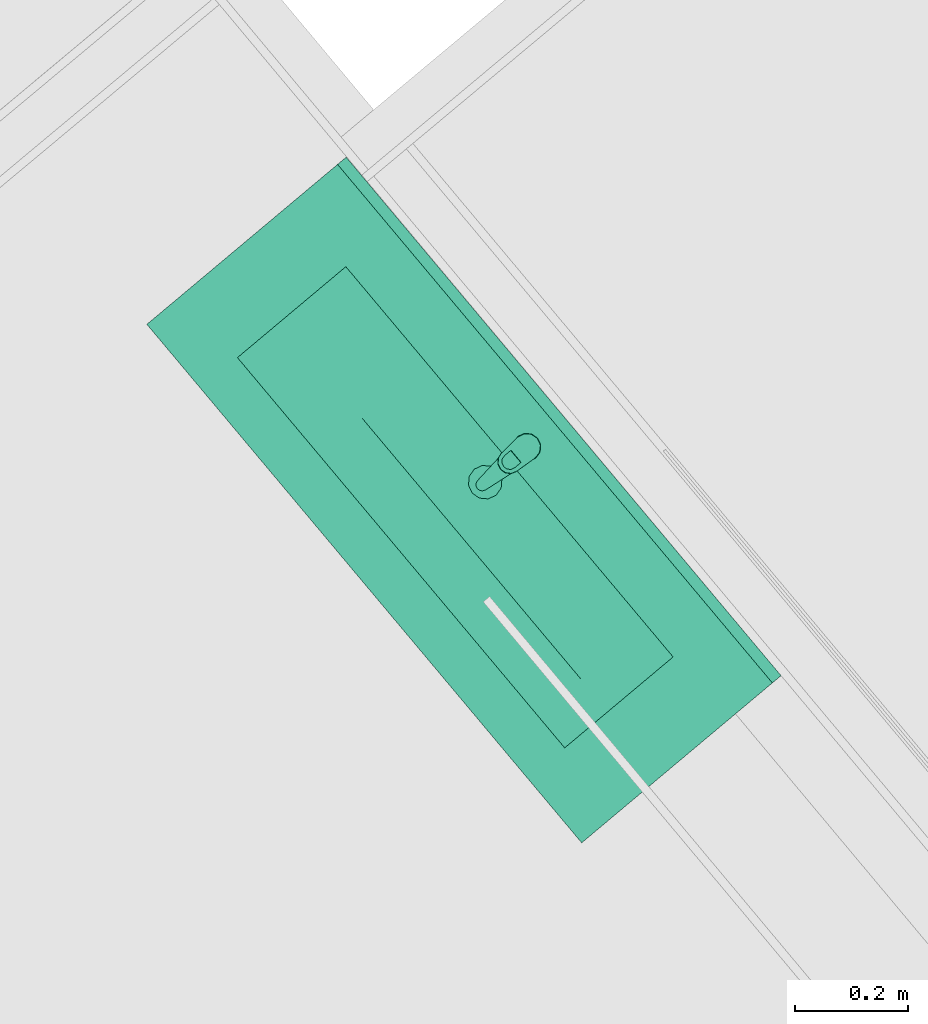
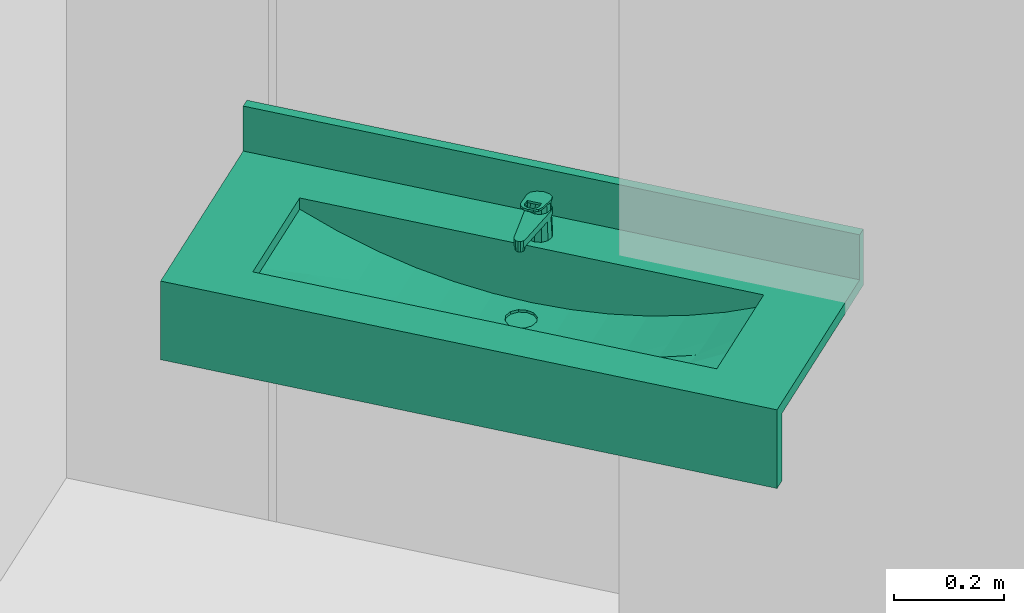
# One storey, part 48 of 50: 1 sanitary terminal.
"""IFC4 building model written with IfcOpenShell, lengths in metres."""

from ifc_helpers import new_model, entity, si_unit, converted_unit, derived_unit, direction, frame, origin_with_axes, place, context, subcontext, project, spatial, polygons, source, transform, mapped, type_object, element, save


model = new_model("IFC4")

# Units and contexts
model_context = context("Model", 3, precision=1e-05, world=origin_with_axes(), true_north=direction((0.0, 1.0)))
body_context = subcontext(model_context, "Body", "Model", "MODEL_VIEW")
ifc_project = project(units=[si_unit("LENGTHUNIT", "METRE"), si_unit("AREAUNIT", "SQUARE_METRE"), si_unit("VOLUMEUNIT", "CUBIC_METRE"), converted_unit("PLANEANGLEUNIT", "DEGREE", entity("IfcPlaneAngleMeasure", 0.0174532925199), si_unit("PLANEANGLEUNIT", "RADIAN"), dimensions=[0, 0, 0, 0, 0, 0, 0]), converted_unit("TIMEUNIT", "Year", entity("IfcTimeMeasure", 31556926.0), si_unit("TIMEUNIT", "SECOND"), dimensions=[0, 0, 1, 0, 0, 0, 0]), si_unit("MASSUNIT", "GRAM", prefix="KILO"), si_unit("THERMODYNAMICTEMPERATUREUNIT", "DEGREE_CELSIUS"), si_unit("LUMINOUSINTENSITYUNIT", "LUMEN"), si_unit("ENERGYUNIT", "JOULE", prefix="MEGA"), derived_unit("THERMALCONDUCTANCEUNIT", [(si_unit("POWERUNIT", "WATT"), 1), (si_unit("LENGTHUNIT", "METRE"), -1), (si_unit("THERMODYNAMICTEMPERATUREUNIT", "KELVIN"), -1)]), derived_unit("SPECIFICHEATCAPACITYUNIT", [(si_unit("ENERGYUNIT", "JOULE"), 1), (si_unit("MASSUNIT", "GRAM", prefix="KILO"), -1), (si_unit("THERMODYNAMICTEMPERATUREUNIT", "KELVIN"), -1)]), derived_unit("MASSDENSITYUNIT", [(si_unit("MASSUNIT", "GRAM", prefix="KILO"), 1), (si_unit("VOLUMEUNIT", "CUBIC_METRE"), -1)])], contexts=[model_context])

# Site, building, storey, space
site_placement = place(None, frame((-0.00153261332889, -0.00661245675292, 0.0), z_axis=(0.0, 0.0, 1.0), x_axis=(1.0, 0.0, 0.0)))
site = spatial("IfcSite", under=ifc_project, at=site_placement, Name="Gelände", CompositionType="ELEMENT")
building_placement = place(site_placement, origin_with_axes())
building = spatial("IfcBuilding", under=site, at=building_placement, Name="Gebäude", CompositionType="ELEMENT")
storey_placement = place(building_placement, frame((0.0, 0.0, 8.66), z_axis=(0.0, 0.0, 1.0), x_axis=(1.0, 0.0, 0.0)))
storey = spatial("IfcBuildingStorey", under=building, at=storey_placement, Name="DG2", CompositionType="ELEMENT", Elevation=8.66)
space_placement = place(storey_placement, frame((2.09467668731, 18.9197573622, 0.22), z_axis=(0.0, 0.0, 1.0), x_axis=(0.640870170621, -0.76764928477, 0.0)))
space = spatial("IfcSpace", under=storey, at=space_placement, CompositionType="ELEMENT", PredefinedType="NOTDEFINED")

# Sanitary terminal
sanitary_terminal_type = type_object("IfcSanitaryTerminalType", Name="Waschbecken mehrfach 26", PredefinedType="NOTDEFINED")
shared_shape = source(origin_with_axes(), body_context, "Body", "Tessellation", [
    polygons([(-0.597906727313, 0.0, 0.875), (0.597906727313, 0.0, 0.875), (0.597906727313, -0.459810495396, 0.875), (-0.597906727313, -0.459810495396, 0.875), (-0.45, -0.374905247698, 0.875), (0.45, -0.374905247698, 0.875), (0.45, -0.124905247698, 0.875), (-0.45, -0.124905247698, 0.875), (-0.597906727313, 0.0, 0.9), (0.597906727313, 0.0, 0.9), (0.597906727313, -0.459810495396, 0.9), (-0.597906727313, -0.459810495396, 0.9), (-0.45, -0.374905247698, 0.9), (0.45, -0.374905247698, 0.9), (0.45, -0.124905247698, 0.9), (-0.45, -0.124905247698, 0.9)], [[[1, 2, 3, 4], [5, 6, 7, 8]], [[1, 9, 10, 2]], [[2, 10, 11, 3]], [[3, 11, 12, 4]], [[4, 12, 9, 1]], [[13, 14, 6, 5]], [[14, 15, 7, 6]], [[15, 16, 8, 7]], [[16, 13, 5, 8]], [[11, 10, 9, 12], [13, 16, 15, 14]]], closed=True),
    polygons([(-0.597906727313, -0.02, 0.9), (0.597906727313, -0.02, 0.9), (0.597906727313, -0.02, 1.0), (-0.597906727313, -0.02, 1.0), (-0.597906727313, 0.0, 0.9), (0.597906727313, 0.0, 0.9), (0.597906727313, 0.0, 1.0), (-0.597906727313, 0.0, 1.0)], [[[1, 2, 3, 4]], [[1, 5, 6, 2]], [[2, 6, 7, 3]], [[4, 3, 7, 8]], [[5, 1, 4, 8]], [[6, 5, 8, 7]]], closed=True),
    polygons([(-0.597906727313, -0.459810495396, 0.725), (0.597906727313, -0.459810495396, 0.725), (0.597906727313, -0.459810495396, 0.875), (-0.597906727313, -0.459810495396, 0.875), (-0.597906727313, -0.434810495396, 0.725), (0.597906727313, -0.434810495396, 0.725), (0.597906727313, -0.434810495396, 0.875), (-0.597906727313, -0.434810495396, 0.875)], [[[1, 2, 3, 4]], [[1, 5, 6, 2]], [[2, 6, 7, 3]], [[4, 3, 7, 8]], [[5, 1, 4, 8]], [[6, 5, 8, 7]]], closed=True),
    polygons([(0.0, -0.210896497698, 0.775), (-0.015, -0.206877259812, 0.775530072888), (-0.0259807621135, -0.195896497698, 0.775918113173), (-0.03, -0.180896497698, 0.776060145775), (-0.0283946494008, -0.174905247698, 0.776003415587), (-0.075, -0.174905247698, 0.777650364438), (-0.075, -0.224905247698, 0.777650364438), (0.0, -0.224905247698, 0.775), (-0.015, -0.154915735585, 0.775530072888), (0.0, -0.150896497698, 0.775), (0.0, -0.124905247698, 0.775), (-0.075, -0.124905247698, 0.777650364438), (-0.0259807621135, -0.165896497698, 0.775918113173), (-0.15, -0.174905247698, 0.785641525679), (-0.15, -0.224905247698, 0.785641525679), (-0.075, -0.274905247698, 0.787304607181), (0.075, -0.174905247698, 0.777650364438), (0.0283946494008, -0.174905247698, 0.776003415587), (0.03, -0.180896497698, 0.776060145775), (0.0259807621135, -0.195896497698, 0.775918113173), (0.015, -0.206877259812, 0.775530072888), (0.075, -0.224905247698, 0.777650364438), (0.015, -0.154915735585, 0.775530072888), (0.0259807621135, -0.165896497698, 0.775918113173), (0.075, -0.124905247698, 0.777650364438), (0.225, -0.124905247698, 0.799096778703), (0.3, -0.124905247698, 0.818232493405), (0.375, -0.124905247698, 0.843376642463), (0.45, -0.124905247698, 0.875), (-0.45, -0.124905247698, 0.875), (-0.375, -0.124905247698, 0.843376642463), (-0.3, -0.124905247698, 0.818232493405), (-0.225, -0.124905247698, 0.799096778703), (-0.15, -0.124905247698, 0.785641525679), (0.15, -0.124905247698, 0.785641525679), (-0.225, -0.174905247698, 0.799096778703), (-0.225, -0.224905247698, 0.799096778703), (-0.15, -0.274905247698, 0.794561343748), (0.0, -0.274905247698, 0.784895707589), (0.15, -0.224905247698, 0.785641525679), (0.15, -0.174905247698, 0.785641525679), (0.3, -0.174905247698, 0.818232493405), (0.225, -0.174905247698, 0.799096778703), (0.375, -0.174905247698, 0.843376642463), (0.45, -0.174905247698, 0.875), (-0.375, -0.174905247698, 0.843376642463), (-0.45, -0.174905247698, 0.875), (-0.3, -0.174905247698, 0.818232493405), (-0.3, -0.224905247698, 0.818232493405), (-0.225, -0.274905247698, 0.80675793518), (-0.075, -0.324905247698, 0.828130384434), (-0.15, -0.324905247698, 0.832107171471), (0.075, -0.274905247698, 0.787304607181), (0.225, -0.224905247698, 0.799096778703), (0.3, -0.224905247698, 0.818232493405), (0.375, -0.224905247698, 0.843376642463), (0.45, -0.224905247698, 0.875), (0.45, -0.274905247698, 0.875), (0.45, -0.324905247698, 0.875), (0.45, -0.374905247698, 0.875), (-0.45, -0.274905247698, 0.875), (-0.45, -0.224905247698, 0.875), (-0.45, -0.374905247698, 0.875), (-0.45, -0.324905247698, 0.875), (-0.375, -0.224905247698, 0.843376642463), (-0.3, -0.274905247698, 0.824054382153), (-0.225, -0.324905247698, 0.838751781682), (0.0, -0.324905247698, 0.826806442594), (0.15, -0.274905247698, 0.794561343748), (0.225, -0.274905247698, 0.80675793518), (0.3, -0.274905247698, 0.824054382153), (0.375, -0.274905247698, 0.846689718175), (0.375, -0.324905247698, 0.860156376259), (0.375, -0.374905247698, 0.875), (-0.375, -0.324905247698, 0.860156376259), (-0.375, -0.274905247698, 0.846689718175), (-0.3, -0.324905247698, 0.848089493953), (-0.075, -0.374905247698, 0.875), (-0.15, -0.374905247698, 0.875), (-0.225, -0.374905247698, 0.875), (0.075, -0.324905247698, 0.828130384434), (-0.3, -0.374905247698, 0.875), (-0.375, -0.374905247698, 0.875), (0.3, -0.374905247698, 0.875), (0.225, -0.374905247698, 0.875), (0.15, -0.374905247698, 0.875), (0.075, -0.374905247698, 0.875), (0.0, -0.374905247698, 0.875), (0.15, -0.324905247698, 0.832107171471), (0.225, -0.324905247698, 0.838751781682), (0.3, -0.324905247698, 0.848089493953)], [[[1, 2, 3, 4, 5, 6, 7, 8]], [[9, 10, 11, 12, 6, 5, 13]], [[7, 6, 14, 15]], [[16, 8, 7]], [[17, 18, 19, 20, 21, 1, 8, 22]], [[10, 23, 24, 18, 17, 25, 11]], [[26, 27, 28, 29, 30, 31, 32, 33, 34, 12, 11, 25, 35]], [[6, 12, 34, 14]], [[15, 14, 36, 37]], [[38, 7, 15]], [[16, 39, 8]], [[38, 16, 7]], [[39, 22, 8]], [[40, 41, 17, 22]], [[41, 35, 25, 17]], [[42, 27, 26, 43]], [[44, 28, 27, 42]], [[45, 29, 28, 44]], [[46, 31, 30, 47]], [[48, 32, 31, 46]], [[36, 33, 32, 48]], [[14, 34, 33, 36]], [[43, 26, 35, 41]], [[37, 36, 48, 49]], [[50, 15, 37]], [[50, 38, 15]], [[51, 39, 16]], [[52, 16, 38]], [[39, 53, 22]], [[54, 43, 41, 40]], [[53, 40, 22]], [[55, 42, 43, 54]], [[56, 44, 42, 55]], [[57, 58, 59, 60, 29, 45]], [[57, 45, 44, 56]], [[61, 62, 47, 30, 63, 64]], [[65, 46, 47, 62]], [[49, 48, 46, 65]], [[66, 37, 49]], [[66, 50, 37]], [[67, 38, 50]], [[51, 68, 39]], [[52, 51, 16]], [[67, 52, 38]], [[68, 53, 39]], [[69, 54, 40]], [[53, 69, 40]], [[70, 55, 54]], [[71, 56, 55]], [[72, 58, 57]], [[73, 59, 58]], [[74, 60, 59]], [[72, 57, 56]], [[61, 65, 62]], [[63, 75, 64]], [[64, 76, 61]], [[76, 49, 65]], [[76, 66, 49]], [[77, 50, 66]], [[77, 67, 50]], [[78, 68, 51]], [[79, 51, 52]], [[80, 52, 67]], [[68, 81, 53]], [[69, 70, 54]], [[81, 69, 53]], [[70, 71, 55]], [[71, 72, 56]], [[73, 58, 72]], [[74, 59, 73]], [[80, 82, 83, 63, 60, 74, 84, 85, 86, 87, 88, 78, 79]], [[61, 76, 65]], [[63, 83, 75]], [[64, 75, 76]], [[75, 66, 76]], [[75, 77, 66]], [[82, 67, 77]], [[78, 88, 68]], [[79, 78, 51]], [[80, 79, 52]], [[82, 80, 67]], [[88, 81, 68]], [[89, 70, 69]], [[81, 89, 69]], [[90, 71, 70]], [[91, 72, 71]], [[91, 73, 72]], [[84, 74, 73]], [[83, 82, 77]], [[85, 84, 91]], [[86, 85, 90]], [[87, 86, 89]], [[88, 87, 81]], [[83, 77, 75]], [[89, 90, 70]], [[87, 89, 81]], [[90, 91, 71]], [[84, 73, 91]], [[85, 91, 90]], [[86, 90, 89]]], closed=False),
    polygons([(0.03, -0.180896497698, 0.776060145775), (0.0259807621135, -0.195896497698, 0.775918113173), (0.0259807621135, -0.195896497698, 0.77), (0.03, -0.180896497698, 0.77), (0.015, -0.206877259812, 0.775530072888), (0.015, -0.206877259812, 0.77), (0.0, -0.150896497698, 0.77), (0.015, -0.154915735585, 0.77), (0.0259807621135, -0.165896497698, 0.77), (0.0, -0.210896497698, 0.77), (-0.015, -0.206877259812, 0.77), (-0.0259807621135, -0.195896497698, 0.77), (-0.03, -0.180896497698, 0.77), (-0.0259807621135, -0.165896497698, 0.77), (-0.015, -0.154915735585, 0.77), (0.0259807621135, -0.165896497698, 0.775918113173), (0.0, -0.210896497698, 0.775), (0.0, -0.150896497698, 0.775), (0.015, -0.154915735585, 0.775530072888), (-0.015, -0.206877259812, 0.775530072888), (-0.0259807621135, -0.195896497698, 0.775918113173), (-0.03, -0.180896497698, 0.776060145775), (-0.0259807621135, -0.165896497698, 0.775918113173), (-0.015, -0.154915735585, 0.775530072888)], [[[1, 2, 3, 4]], [[2, 5, 6, 3]], [[7, 8, 9, 4, 3, 6, 10, 11, 12, 13, 14, 15]], [[16, 1, 4, 9]], [[5, 17, 10, 6]], [[18, 19, 8, 7]], [[19, 16, 9, 8]], [[17, 20, 11, 10]], [[20, 21, 12, 11]], [[21, 22, 13, 12]], [[22, 23, 14, 13]], [[23, 24, 15, 14]], [[24, 18, 7, 15]]], closed=False),
    polygons([(0.0125, -0.0632546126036, 0.9), (0.0, -0.0599052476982, 0.9), (0.0, -0.0637033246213, 0.975961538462), (0.0105873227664, -0.0665674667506, 0.976507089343), (0.0216506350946, -0.0724052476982, 0.9), (0.025, -0.0849052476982, 0.9), (0.0216506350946, -0.0974052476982, 0.9), (0.0125, -0.106555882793, 0.9), (0.0, -0.109905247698, 0.9), (-0.0125, -0.106555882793, 0.9), (-0.0216506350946, -0.0974052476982, 0.9), (-0.025, -0.0849052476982, 0.9), (-0.0216506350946, -0.0724052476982, 0.9), (-0.0125, -0.0632546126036, 0.9), (-0.0105873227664, -0.0665674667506, 0.976507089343), (-0.0182735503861, -0.0743550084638, 0.977990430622), (-0.021, -0.0849052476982, 0.98), (-0.0181003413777, -0.095355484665, 0.981990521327), (-0.0104141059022, -0.102943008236, 0.983435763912), (0.0, -0.105707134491, 0.983962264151), (0.0104141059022, -0.102943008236, 0.983435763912), (0.0181003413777, -0.095355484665, 0.981990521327), (0.021, -0.0849052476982, 0.98), (0.0182735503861, -0.0743550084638, 0.977990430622)], [[[1, 2, 3, 4]], [[1, 5, 6, 7, 8, 9, 10, 11, 12, 13, 14, 2]], [[2, 14, 15, 3]], [[4, 3, 15, 16, 17, 18, 19, 20, 21, 22, 23, 24]], [[5, 1, 4, 24]], [[6, 5, 24, 23]], [[7, 6, 23, 22]], [[8, 7, 22, 21]], [[9, 8, 21, 20]], [[10, 9, 20, 19]], [[11, 10, 19, 18]], [[12, 11, 18, 17]], [[13, 12, 17, 16]], [[14, 13, 16, 15]]], closed=True),
    polygons([(0.009, -0.187905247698, 0.935), (0.00779422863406, -0.183405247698, 0.935), (0.00779422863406, -0.183405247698, 0.945), (0.009, -0.187905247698, 0.945), (0.00779422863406, -0.192405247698, 0.935), (0.0045, -0.195699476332, 0.935), (0.0, -0.196905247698, 0.935), (-0.0045, -0.195699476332, 0.935), (-0.00779422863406, -0.192405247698, 0.935), (-0.009, -0.187905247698, 0.935), (-0.00779422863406, -0.183405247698, 0.935), (-0.0045, -0.180111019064, 0.935), (0.0, -0.178905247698, 0.935), (0.0045, -0.180111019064, 0.935), (0.0045, -0.180111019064, 0.945), (0.0, -0.178905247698, 0.945), (-0.0045, -0.180111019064, 0.945), (-0.00779422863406, -0.183405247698, 0.945), (-0.009, -0.187905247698, 0.945), (-0.00779422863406, -0.192405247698, 0.945), (-0.0045, -0.195699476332, 0.945), (0.0, -0.196905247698, 0.945), (0.0045, -0.195699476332, 0.945), (0.00779422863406, -0.192405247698, 0.945)], [[[1, 2, 3, 4]], [[1, 5, 6, 7, 8, 9, 10, 11, 12, 13, 14, 2]], [[2, 14, 15, 3]], [[4, 3, 15, 16, 17, 18, 19, 20, 21, 22, 23, 24]], [[5, 1, 4, 24]], [[6, 5, 24, 23]], [[7, 6, 23, 22]], [[8, 7, 22, 21]], [[9, 8, 21, 20]], [[10, 9, 20, 19]], [[11, 10, 19, 18]], [[12, 11, 18, 17]], [[13, 12, 17, 16]], [[14, 13, 16, 15]]], closed=True),
    polygons([(-0.0128717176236, -0.0646489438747, 0.96), (-0.021727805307, -0.0747120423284, 0.96), (-0.0238054, -0.0879551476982, 0.96), (-0.010911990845, -0.189293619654, 0.96), (-0.00902887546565, -0.194188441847, 0.96), (-0.00509332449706, -0.197654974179, 0.96), (3.62679860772e-08, -0.198905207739, 0.96), (0.00509338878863, -0.197654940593, 0.96), (0.00902891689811, -0.194188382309, 0.96), (0.010912, -0.189293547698, 0.96), (0.0238053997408, -0.0879551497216, 0.96), (0.0217278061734, -0.0747120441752, 0.96), (0.0128717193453, -0.0646489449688, 0.96), (1.01998896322e-09, -0.0609052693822, 0.96), (0.011, -0.0658526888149, 0.96), (0.0190525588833, -0.0739052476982, 0.96), (0.022, -0.0849052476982, 0.96), (0.0190525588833, -0.0959052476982, 0.96), (0.011, -0.103957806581, 0.96), (0.0, -0.106905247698, 0.96), (-0.011, -0.103957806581, 0.96), (-0.0190525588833, -0.0959052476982, 0.96), (-0.022, -0.0849052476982, 0.96), (-0.0190525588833, -0.0739052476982, 0.96), (-0.011, -0.0658526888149, 0.96), (0.0, -0.0629052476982, 0.96), (-0.021727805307, -0.0747120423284, 0.945), (-0.0128717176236, -0.0646489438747, 0.945), (-0.0238054, -0.0879551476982, 0.945), (-0.010911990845, -0.189293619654, 0.945), (-0.00902887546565, -0.194188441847, 0.945), (-0.00509332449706, -0.197654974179, 0.945), (3.62679860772e-08, -0.198905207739, 0.945), (0.00509338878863, -0.197654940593, 0.945), (0.00902891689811, -0.194188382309, 0.945), (0.010912, -0.189293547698, 0.945), (0.0238053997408, -0.0879551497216, 0.945), (0.0217278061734, -0.0747120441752, 0.945), (0.0128717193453, -0.0646489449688, 0.945), (1.01998896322e-09, -0.0609052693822, 0.945), (0.011375, -0.0652031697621, 0.945), (0.0197020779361, -0.0735302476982, 0.945), (0.02275, -0.0849052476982, 0.945), (0.0197020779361, -0.0962802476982, 0.945), (0.011375, -0.104607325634, 0.945), (0.0, -0.107655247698, 0.945), (-0.011375, -0.104607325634, 0.945), (-0.0197020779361, -0.0962802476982, 0.945), (-0.02275, -0.0849052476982, 0.945), (-0.0197020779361, -0.0735302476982, 0.945), (-0.011375, -0.0652031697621, 0.945), (0.0, -0.0621552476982, 0.945)], [[[1, 2, 3, 4, 5, 6, 7, 8, 9, 10, 11, 12, 13, 14], [15, 16, 17, 18, 19, 20, 21, 22, 23, 24, 25, 26]], [[27, 2, 1, 28]], [[29, 3, 2, 27]], [[30, 4, 3, 29]], [[31, 5, 4, 30]], [[32, 6, 5, 31]], [[33, 7, 6, 32]], [[34, 8, 7, 33]], [[35, 9, 8, 34]], [[36, 10, 9, 35]], [[37, 11, 10, 36]], [[38, 12, 11, 37]], [[39, 13, 12, 38]], [[40, 14, 13, 39]], [[28, 1, 14, 40]], [[41, 42, 16, 15]], [[42, 43, 17, 16]], [[43, 44, 18, 17]], [[44, 45, 19, 18]], [[45, 46, 20, 19]], [[21, 20, 46, 47]], [[22, 21, 47, 48]], [[23, 22, 48, 49]], [[24, 23, 49, 50]], [[25, 24, 50, 51]], [[51, 52, 26, 25]], [[52, 41, 15, 26]], [[33, 32, 31, 30, 29, 27, 28, 40, 39, 38, 37, 36, 35, 34], [45, 44, 43, 42, 41, 52, 51, 50, 49, 48, 47, 46]]], closed=True),
    polygons([(0.023893, -0.0865978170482, 0.980322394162), (0.0212964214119, -0.0741305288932, 0.977947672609), (0.0212964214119, -0.0733820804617, 0.981877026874), (0.023893, -0.0858493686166, 0.984251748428), (0.0209459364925, -0.126741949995, 0.987968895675), (0.0176631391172, -0.13641961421, 0.989812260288), (0.0100614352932, -0.14336899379, 0.991135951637), (-4.42652908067e-07, -0.145890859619, 0.991616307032), (-0.0100622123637, -0.143368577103, 0.991135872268), (-0.0176636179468, -0.136418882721, 0.989812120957), (-0.020946, -0.126741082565, 0.987968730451), (-0.023893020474, -0.0865975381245, 0.980322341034), (-0.0212962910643, -0.0741302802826, 0.977947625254), (-0.0124716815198, -0.0648140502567, 0.976173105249), (1.42337785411e-07, -0.0613732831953, 0.975517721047), (0.0124719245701, -0.0648141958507, 0.976173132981), (0.014, -0.110446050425, 0.984864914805), (-0.014, -0.110446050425, 0.984864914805), (-0.014, -0.125261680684, 0.987686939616), (-0.012124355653, -0.132138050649, 0.988996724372), (-0.007, -0.137171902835, 0.989955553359), (0.0, -0.139014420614, 0.990306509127), (0.007, -0.137171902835, 0.989955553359), (0.012124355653, -0.132138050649, 0.988996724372), (0.014, -0.125261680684, 0.987686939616), (0.0124719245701, -0.0640657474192, 0.980102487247), (1.42337785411e-07, -0.0606248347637, 0.979447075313), (-0.0124716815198, -0.0640656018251, 0.980102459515), (-0.0212962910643, -0.073381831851, 0.98187697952), (-0.023893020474, -0.085849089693, 0.984251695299), (-0.020946, -0.125992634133, 0.991898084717), (-0.0176636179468, -0.13567043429, 0.993741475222), (-0.0100622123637, -0.142620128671, 0.995065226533), (-4.42652908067e-07, -0.145142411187, 0.995545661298), (0.0100614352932, -0.142620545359, 0.995065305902), (0.0176631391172, -0.135671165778, 0.993741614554), (0.0209459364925, -0.125993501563, 0.991898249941), (0.014, -0.109697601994, 0.988794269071), (0.014, -0.124513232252, 0.991616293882), (0.012124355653, -0.131389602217, 0.992926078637), (0.007, -0.136423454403, 0.993884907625), (0.0, -0.138265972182, 0.994235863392), (-0.007, -0.136423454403, 0.993884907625), (-0.012124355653, -0.131389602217, 0.992926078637), (-0.014, -0.124513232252, 0.991616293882), (-0.014, -0.109697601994, 0.988794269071)], [[[1, 2, 3, 4]], [[1, 5, 6, 7, 8, 9, 10, 11, 12, 13, 14, 15, 16, 2], [17, 18, 19, 20, 21, 22, 23, 24, 25]], [[2, 16, 26, 3]], [[4, 3, 26, 27, 28, 29, 30, 31, 32, 33, 34, 35, 36, 37], [38, 39, 40, 41, 42, 43, 44, 45, 46]], [[5, 1, 4, 37]], [[6, 5, 37, 36]], [[7, 6, 36, 35]], [[8, 7, 35, 34]], [[9, 8, 34, 33]], [[10, 9, 33, 32]], [[11, 10, 32, 31]], [[12, 11, 31, 30]], [[13, 12, 30, 29]], [[14, 13, 29, 28]], [[15, 14, 28, 27]], [[16, 15, 27, 26]], [[18, 17, 38, 46]], [[19, 18, 46, 45]], [[20, 19, 45, 44]], [[21, 20, 44, 43]], [[22, 21, 43, 42]], [[23, 22, 42, 41]], [[24, 23, 41, 40]], [[25, 24, 40, 39]], [[17, 25, 39, 38]]], closed=True),
])
sanitary_terminal_placement = place(space_placement, frame((0.948636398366, 3.91888269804, -0.075), z_axis=(0.0, 0.0, 1.0), x_axis=(0.999997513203, 0.00223015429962, 0.0)))
element("IfcSanitaryTerminal", 1, at=sanitary_terminal_placement, inside=space, type_object=sanitary_terminal_type, Name="Objekt-0009", PredefinedType="NOTDEFINED", context=body_context, shape_type="MappedRepresentation", body=[
    mapped(shared_shape, transform((0.0, 0.0, 0.0))),
])

save(model, "model.ifc")
